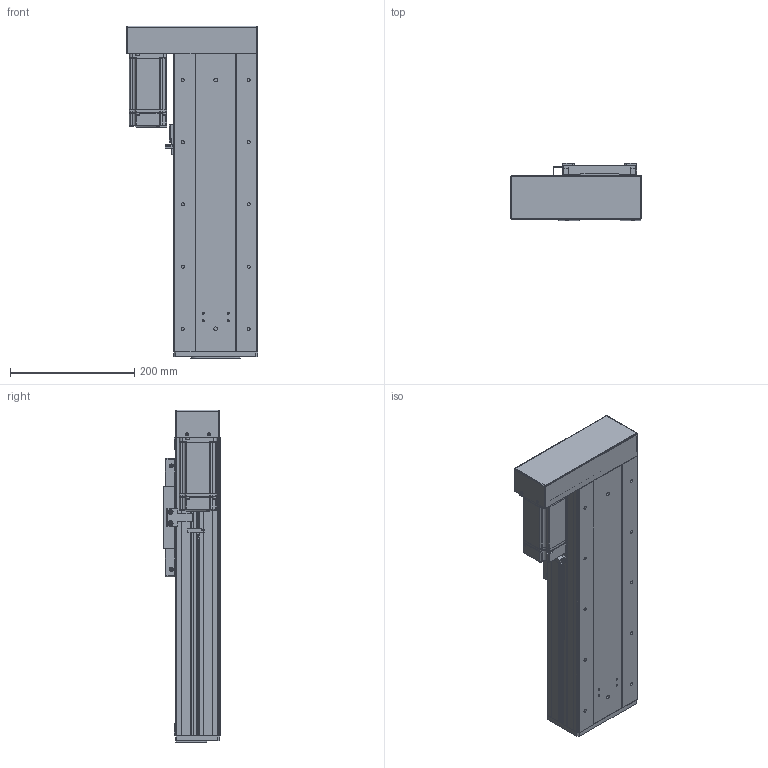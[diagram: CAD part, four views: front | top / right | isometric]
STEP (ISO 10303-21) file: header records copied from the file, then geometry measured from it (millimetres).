
FILE_DESCRIPTION (( 'STEP AP203' ), '1' );
FILE_NAME ('RY140F-L2020-300-LK.SLDASM_200.step', '2021-03-02T08:36:49', ( '盈信电脑' ), ( '东莞市道滘镇水果街19号' ), 'SwSTEP 2.0', 'SolidWorks 2012', '' );
FILE_SCHEMA (( 'CONFIG_CONTROL_DESIGN' ));
Length unit declared in the file: millimetre
Products named in the file (19): RY140F-L2020-300-LK.SLDASM_200; RY140F-酘衵殏萇儂欶(400W); RY140F-左右折电机安装板(400W M5); 侐源滅袉蝶; RY140F-转折折电机座（7001）; RY140F-672覜茼んえ; RY140F-詩湍揤え; RY140F-后盖板(铝件）; 15; 覜茼ん672; 侂狟400W侜督萇儂; RY140F-直连型材铝滑块(16丝杆); RY140F-詩湍幗謫粣; RY100F-詩湍揤踡謫; RY140F-直连型材铝滑块连接座; RY140F-300-LK蛌殏詩湍_200; RY140F-滅鳥奻裔; RY140F-300-LK倰第奻裔啣_200; RY140F-300-LK倰第菁釱_200
Assembly tree (23 placements, depth 3):
  RY140F-L2020-300-LK.SLDASM_200
    RY140F-300-LK倰第菁釱_200
    RY140F-300-LK倰第奻裔啣_200  x2
    RY140F-300-LK蛌殏詩湍_200
    RY140F-直连型材铝滑块连接座
    RY140F-滅鳥奻裔
    RY140F-詩湍幗謫粣
    RY100F-詩湍揤踡謫
    RY140F-直连型材铝滑块(16丝杆)
    RY140F-后盖板(铝件）
    侂狟400W侜督萇儂
      15
    覜茼ん672
    RY140F-672覜茼んえ
    RY140F-詩湍揤え  x2
    侐源滅袉蝶  x4
    RY140F-转折折电机座（7001）
    RY140F-左右折电机安装板(400W M5)
    RY140F-酘衵殏萇儂欶(400W)
Bounding box: 211 x 91 x 534 mm (x, y, z)
Volume: 2616076.4 mm3; surface area: 919192.4 mm2
Topology: 22 solids, 22 shells, 1961 faces, 5357 edges, 3416 vertices
Faces by surface type: cylinder 944, plane 789, cone 198, bspline 26, torus 4
Entity records: 62135 total; most frequent: CARTESIAN_POINT 13241, DIRECTION 9890, ORIENTED_EDGE 9658, EDGE_CURVE 4829, AXIS2_PLACEMENT_3D 3529, VERTEX_POINT 3156, LINE 2832, VECTOR 2832
